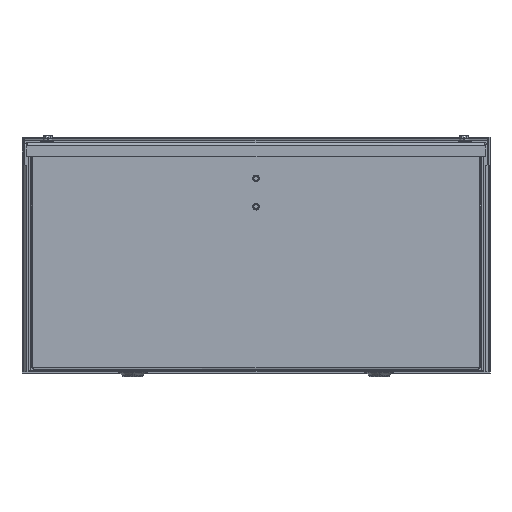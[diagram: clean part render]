
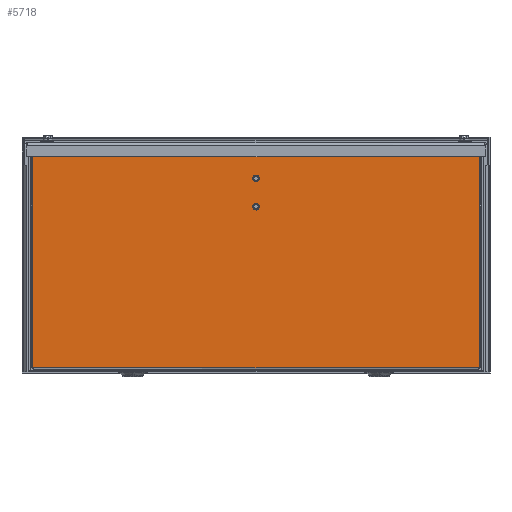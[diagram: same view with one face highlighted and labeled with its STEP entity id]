
A CAD part, front view. The second image highlights one B-rep face of the part: STEP entity #5718.
In plain terms, the highlighted planar face has unit normal (0, -1, 0).
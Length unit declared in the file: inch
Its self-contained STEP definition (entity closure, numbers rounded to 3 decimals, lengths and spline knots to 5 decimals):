
#103 = DIRECTION ( 'NONE',  ( 0., 0., -1. ) ) ;
#687 = AXIS2_PLACEMENT_3D ( 'NONE', #8427, #18686, #4109 ) ;
#720 = LINE ( 'NONE', #6695, #6848 ) ;
#1243 = DIRECTION ( 'NONE',  ( 0., 0., -1. ) ) ;
#1304 = CARTESIAN_POINT ( 'NONE',  ( 11.767, 0., 11.843 ) ) ;
#1602 = PLANE ( 'NONE',  #9813 ) ;
#1753 = VERTEX_POINT ( 'NONE', #26303 ) ;
#2093 = ORIENTED_EDGE ( 'NONE', *, *, #4307, .F. ) ;
#2256 = CARTESIAN_POINT ( 'NONE',  ( 11.342, 0., 11.843 ) ) ;
#2885 = ORIENTED_EDGE ( 'NONE', *, *, #8949, .T. ) ;
#2968 = DIRECTION ( 'NONE',  ( 0., 0., 1. ) ) ;
#3236 = CARTESIAN_POINT ( 'NONE',  ( 11.342, 0., 11.862 ) ) ;
#3507 = VECTOR ( 'NONE', #12254, 39.37008 ) ;
#3542 = CARTESIAN_POINT ( 'NONE',  ( -11.342, 0., 11.843 ) ) ;
#3550 = DIRECTION ( 'NONE',  ( 0., -1., 0. ) ) ;
#3770 = DIRECTION ( 'NONE',  ( 0., 0., -1. ) ) ;
#4065 = VERTEX_POINT ( 'NONE', #1304 ) ;
#4109 = DIRECTION ( 'NONE',  ( 0., 0., -1. ) ) ;
#4307 = EDGE_CURVE ( 'NONE', #21514, #24604, #23936, .T. ) ;
#4476 = EDGE_CURVE ( 'NONE', #24604, #21514, #25229, .T. ) ;
#5069 = LINE ( 'NONE', #21392, #10497 ) ;
#5668 = EDGE_CURVE ( 'NONE', #17672, #14021, #16713, .T. ) ;
#5718 = ADVANCED_FACE ( 'NONE', ( #22386, #8092, #18088 ), #1602, .F. ) ;
#6179 = CARTESIAN_POINT ( 'NONE',  ( -11.767, 0., 0.189 ) ) ;
#6695 = CARTESIAN_POINT ( 'NONE',  ( 11.342, 0., 11.862 ) ) ;
#6848 = VECTOR ( 'NONE', #14924, 39.37008 ) ;
#7437 = ORIENTED_EDGE ( 'NONE', *, *, #14931, .T. ) ;
#7441 = CARTESIAN_POINT ( 'NONE',  ( 0., 0., 10.18 ) ) ;
#7889 = VECTOR ( 'NONE', #23939, 39.37008 ) ;
#8092 = FACE_BOUND ( 'NONE', #10491, .T. ) ;
#8145 = EDGE_LOOP ( 'NONE', ( #25930, #12397, #18790, #20420, #7437, #2885, #14993, #25302 ) ) ;
#8427 = CARTESIAN_POINT ( 'NONE',  ( 0., 0., 10.18 ) ) ;
#8949 = EDGE_CURVE ( 'NONE', #13543, #4065, #25362, .T. ) ;
#9156 = VERTEX_POINT ( 'NONE', #24136 ) ;
#9342 = VECTOR ( 'NONE', #13127, 39.37008 ) ;
#9610 = LINE ( 'NONE', #13656, #20663 ) ;
#9649 = VERTEX_POINT ( 'NONE', #3542 ) ;
#9731 = DIRECTION ( 'NONE',  ( 0., -1., 0. ) ) ;
#9813 = AXIS2_PLACEMENT_3D ( 'NONE', #16201, #14187, #11752 ) ;
#10146 = VERTEX_POINT ( 'NONE', #3236 ) ;
#10208 = LINE ( 'NONE', #18832, #3507 ) ;
#10238 = CARTESIAN_POINT ( 'NONE',  ( 0., 0., 10.0555 ) ) ;
#10491 = EDGE_LOOP ( 'NONE', ( #14106, #22402 ) ) ;
#10497 = VECTOR ( 'NONE', #19124, 39.37008 ) ;
#10762 = AXIS2_PLACEMENT_3D ( 'NONE', #13559, #3550, #1243 ) ;
#11064 = CARTESIAN_POINT ( 'NONE',  ( 0., 0., 8.8045 ) ) ;
#11541 = AXIS2_PLACEMENT_3D ( 'NONE', #19982, #9731, #3770 ) ;
#11752 = DIRECTION ( 'NONE',  ( 0., 0., 1. ) ) ;
#12254 = DIRECTION ( 'NONE',  ( 1., 0., 0. ) ) ;
#12397 = ORIENTED_EDGE ( 'NONE', *, *, #22555, .F. ) ;
#12407 = EDGE_CURVE ( 'NONE', #21158, #9649, #10208, .T. ) ;
#12493 = CARTESIAN_POINT ( 'NONE',  ( 0., 0., 8.5555 ) ) ;
#12917 = CARTESIAN_POINT ( 'NONE',  ( 0., 0., 10.3045 ) ) ;
#13102 = ORIENTED_EDGE ( 'NONE', *, *, #4476, .F. ) ;
#13127 = DIRECTION ( 'NONE',  ( 0., 0., 1. ) ) ;
#13543 = VERTEX_POINT ( 'NONE', #25982 ) ;
#13559 = CARTESIAN_POINT ( 'NONE',  ( 0., 0., 8.68 ) ) ;
#13656 = CARTESIAN_POINT ( 'NONE',  ( -11.342, 0., 11.843 ) ) ;
#13875 = VECTOR ( 'NONE', #103, 39.37008 ) ;
#14021 = VERTEX_POINT ( 'NONE', #12493 ) ;
#14106 = ORIENTED_EDGE ( 'NONE', *, *, #21752, .F. ) ;
#14187 = DIRECTION ( 'NONE',  ( 0., 1., 0. ) ) ;
#14924 = DIRECTION ( 'NONE',  ( -1., 0., 0. ) ) ;
#14931 = EDGE_CURVE ( 'NONE', #1753, #13543, #25016, .T. ) ;
#14993 = ORIENTED_EDGE ( 'NONE', *, *, #18334, .F. ) ;
#15635 = CARTESIAN_POINT ( 'NONE',  ( -11.767, 0., 11.843 ) ) ;
#16201 = CARTESIAN_POINT ( 'NONE',  ( -11.882, 0., 11.843 ) ) ;
#16429 = EDGE_CURVE ( 'NONE', #21158, #1753, #5069, .T. ) ;
#16594 = LINE ( 'NONE', #2256, #13875 ) ;
#16713 = CIRCLE ( 'NONE', #11541, 0.1245 ) ;
#17070 = DIRECTION ( 'NONE',  ( 0., -1., 0. ) ) ;
#17672 = VERTEX_POINT ( 'NONE', #11064 ) ;
#18032 = LINE ( 'NONE', #19922, #7889 ) ;
#18088 = FACE_OUTER_BOUND ( 'NONE', #8145, .T. ) ;
#18334 = EDGE_CURVE ( 'NONE', #9156, #4065, #18032, .T. ) ;
#18662 = EDGE_CURVE ( 'NONE', #10146, #20956, #720, .T. ) ;
#18686 = DIRECTION ( 'NONE',  ( 0., -1., 0. ) ) ;
#18790 = ORIENTED_EDGE ( 'NONE', *, *, #12407, .F. ) ;
#18832 = CARTESIAN_POINT ( 'NONE',  ( -11.882, 0., 11.843 ) ) ;
#19124 = DIRECTION ( 'NONE',  ( 0., 0., -1. ) ) ;
#19310 = EDGE_LOOP ( 'NONE', ( #13102, #2093 ) ) ;
#19448 = CARTESIAN_POINT ( 'NONE',  ( 11.767, 0., 0.189 ) ) ;
#19922 = CARTESIAN_POINT ( 'NONE',  ( 11.882, 0., 11.843 ) ) ;
#19982 = CARTESIAN_POINT ( 'NONE',  ( 0., 0., 8.68 ) ) ;
#20098 = AXIS2_PLACEMENT_3D ( 'NONE', #7441, #17070, #22977 ) ;
#20420 = ORIENTED_EDGE ( 'NONE', *, *, #16429, .T. ) ;
#20663 = VECTOR ( 'NONE', #2968, 39.37008 ) ;
#20956 = VERTEX_POINT ( 'NONE', #25715 ) ;
#21158 = VERTEX_POINT ( 'NONE', #15635 ) ;
#21392 = CARTESIAN_POINT ( 'NONE',  ( -11.767, 0., 11.843 ) ) ;
#21514 = VERTEX_POINT ( 'NONE', #12917 ) ;
#21752 = EDGE_CURVE ( 'NONE', #14021, #17672, #23212, .T. ) ;
#22386 = FACE_BOUND ( 'NONE', #19310, .T. ) ;
#22402 = ORIENTED_EDGE ( 'NONE', *, *, #5668, .F. ) ;
#22555 = EDGE_CURVE ( 'NONE', #9649, #20956, #9610, .T. ) ;
#22977 = DIRECTION ( 'NONE',  ( 0., 0., -1. ) ) ;
#23007 = DIRECTION ( 'NONE',  ( 1., 0., 0. ) ) ;
#23212 = CIRCLE ( 'NONE', #10762, 0.1245 ) ;
#23936 = CIRCLE ( 'NONE', #687, 0.1245 ) ;
#23939 = DIRECTION ( 'NONE',  ( 1., 0., 0. ) ) ;
#24136 = CARTESIAN_POINT ( 'NONE',  ( 11.342, 0., 11.843 ) ) ;
#24604 = VERTEX_POINT ( 'NONE', #10238 ) ;
#25016 = LINE ( 'NONE', #6179, #25484 ) ;
#25229 = CIRCLE ( 'NONE', #20098, 0.1245 ) ;
#25302 = ORIENTED_EDGE ( 'NONE', *, *, #26297, .F. ) ;
#25362 = LINE ( 'NONE', #19448, #9342 ) ;
#25484 = VECTOR ( 'NONE', #23007, 39.37008 ) ;
#25715 = CARTESIAN_POINT ( 'NONE',  ( -11.342, 0., 11.862 ) ) ;
#25930 = ORIENTED_EDGE ( 'NONE', *, *, #18662, .T. ) ;
#25982 = CARTESIAN_POINT ( 'NONE',  ( 11.767, 0., 0.189 ) ) ;
#26297 = EDGE_CURVE ( 'NONE', #10146, #9156, #16594, .T. ) ;
#26303 = CARTESIAN_POINT ( 'NONE',  ( -11.767, 0., 0.189 ) ) ;
